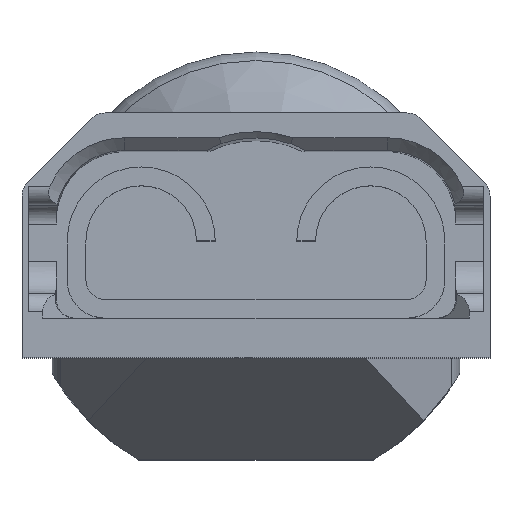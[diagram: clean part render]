
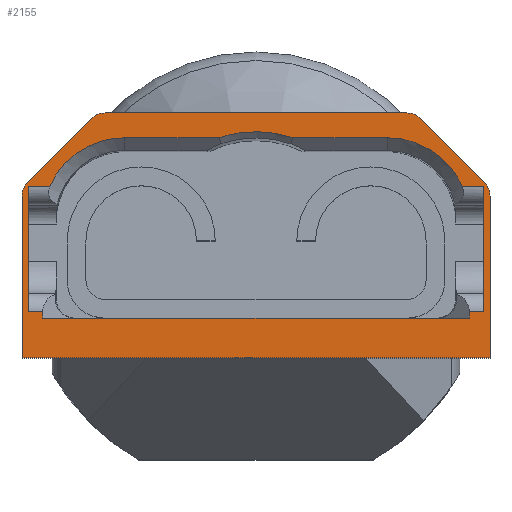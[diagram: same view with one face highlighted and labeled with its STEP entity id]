
A CAD part, top view. The second image highlights one B-rep face of the part: STEP entity #2155.
In plain terms, the highlighted planar face has unit normal (0, 0, 1).
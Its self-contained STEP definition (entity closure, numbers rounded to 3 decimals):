
#2=CARTESIAN_POINT('',(4.356,3.271,0.));
#3=DIRECTION('',(0.,0.,1.));
#4=DIRECTION('',(1.,0.,0.));
#5=AXIS2_PLACEMENT_3D('',#2,#3,#4);
#7=DIRECTION('',(0.,1.,0.));
#8=VECTOR('',#7,3.271);
#9=CARTESIAN_POINT('',(4.737,0.,0.));
#10=LINE('',#9,#8);
#11=DIRECTION('',(1.,0.,0.));
#12=VECTOR('',#11,9.474);
#13=CARTESIAN_POINT('',(-4.737,0.,0.));
#14=LINE('',#13,#12);
#15=DIRECTION('',(0.,-1.,0.));
#16=VECTOR('',#15,3.271);
#17=CARTESIAN_POINT('',(-4.737,3.271,0.));
#18=LINE('',#17,#16);
#19=CARTESIAN_POINT('',(-4.356,3.271,0.));
#20=DIRECTION('',(0.,0.,1.));
#21=DIRECTION('',(-0.707,0.707,0.));
#22=AXIS2_PLACEMENT_3D('',#19,#20,#21);
#24=DIRECTION('',(0.707,0.707,0.));
#25=VECTOR('',#24,1.84);
#26=CARTESIAN_POINT('',(-4.626,3.541,0.));
#27=LINE('',#26,#25);
#28=CARTESIAN_POINT('',(-3.055,4.572,0.));
#29=DIRECTION('',(0.,0.,1.));
#30=DIRECTION('',(0.,1.,0.));
#31=AXIS2_PLACEMENT_3D('',#28,#29,#30);
#33=DIRECTION('',(-1.,0.,0.));
#34=VECTOR('',#33,6.111);
#35=CARTESIAN_POINT('',(3.055,4.953,0.));
#36=LINE('',#35,#34);
#37=CARTESIAN_POINT('',(3.055,4.572,0.));
#38=DIRECTION('',(0.,0.,1.));
#39=DIRECTION('',(0.707,0.707,0.));
#40=AXIS2_PLACEMENT_3D('',#37,#38,#39);
#42=DIRECTION('',(1.,0.,0.));
#43=VECTOR('',#42,0.434);
#44=CARTESIAN_POINT('',(-4.61,3.467,0.));
#45=LINE('',#44,#43);
#46=DIRECTION('',(1.,0.,0.));
#47=VECTOR('',#46,0.291);
#48=CARTESIAN_POINT('',(-4.61,0.927,0.));
#49=LINE('',#48,#47);
#50=DIRECTION('',(0.,1.,0.));
#51=VECTOR('',#50,0.127);
#52=CARTESIAN_POINT('',(-4.319,0.8,0.));
#53=LINE('',#52,#51);
#54=DIRECTION('',(0.,-1.,0.));
#55=VECTOR('',#54,0.127);
#56=CARTESIAN_POINT('',(4.319,0.927,0.));
#57=LINE('',#56,#55);
#58=DIRECTION('',(1.,0.,0.));
#59=VECTOR('',#58,0.291);
#60=CARTESIAN_POINT('',(4.319,0.927,0.));
#61=LINE('',#60,#59);
#62=DIRECTION('',(1.,0.,0.));
#63=VECTOR('',#62,0.434);
#64=CARTESIAN_POINT('',(4.176,3.467,0.));
#65=LINE('',#64,#63);
#66=CARTESIAN_POINT('',(2.663,4.45,0.));
#67=CARTESIAN_POINT('',(2.771,4.45,0.));
#68=CARTESIAN_POINT('',(2.987,4.429,0.));
#69=CARTESIAN_POINT('',(3.302,4.333,0.));
#70=CARTESIAN_POINT('',(3.59,4.179,0.));
#71=CARTESIAN_POINT('',(3.844,3.97,0.));
#72=CARTESIAN_POINT('',(4.04,3.73,0.));
#73=CARTESIAN_POINT('',(4.138,3.552,0.));
#74=CARTESIAN_POINT('',(4.176,3.467,0.));
#76=DIRECTION('',(1.,0.,0.));
#77=VECTOR('',#76,1.923);
#78=CARTESIAN_POINT('',(0.74,4.45,0.));
#79=LINE('',#78,#77);
#80=CARTESIAN_POINT('',(0.74,4.45,0.));
#81=CARTESIAN_POINT('',(0.644,4.483,0.));
#82=CARTESIAN_POINT('',(0.401,4.549,0.));
#83=CARTESIAN_POINT('',(0.,4.588,0.));
#84=CARTESIAN_POINT('',(-0.401,4.549,
0.));
#85=CARTESIAN_POINT('',(-0.644,4.483,0.));
#86=CARTESIAN_POINT('',(-0.74,4.45,0.));
#88=DIRECTION('',(1.,0.,0.));
#89=VECTOR('',#88,1.923);
#90=CARTESIAN_POINT('',(-2.663,4.45,0.));
#91=LINE('',#90,#89);
#92=CARTESIAN_POINT('',(-4.176,3.467,0.));
#93=CARTESIAN_POINT('',(-4.137,3.554,0.));
#94=CARTESIAN_POINT('',(-4.039,3.732,0.));
#95=CARTESIAN_POINT('',(-3.84,3.975,0.));
#96=CARTESIAN_POINT('',(-3.587,4.181,0.));
#97=CARTESIAN_POINT('',(-3.296,4.336,0.));
#98=CARTESIAN_POINT('',(-2.981,4.43,0.));
#99=CARTESIAN_POINT('',(-2.77,4.45,0.));
#100=CARTESIAN_POINT('',(-2.663,4.45,0.));
#106=DIRECTION('',(-0.707,0.707,0.));
#107=VECTOR('',#106,1.84);
#108=CARTESIAN_POINT('',(4.626,3.541,0.));
#109=LINE('',#108,#107);
#1098=CARTESIAN_POINT('',(-4.176,3.467,0.));
#1252=DIRECTION('',(-1.,0.,0.));
#1253=VECTOR('',#1252,8.638);
#1254=CARTESIAN_POINT('',(4.319,0.8,0.));
#1255=LINE('',#1254,#1253);
#1596=CARTESIAN_POINT('',(4.176,3.467,0.));
#1656=DIRECTION('',(0.,-1.,0.));
#1657=VECTOR('',#1656,2.54);
#1658=CARTESIAN_POINT('',(4.61,3.467,0.));
#1659=LINE('',#1658,#1657);
#1683=DIRECTION('',(0.,1.,0.));
#1684=VECTOR('',#1683,2.54);
#1685=CARTESIAN_POINT('',(-4.61,0.927,0.));
#1686=LINE('',#1685,#1684);
#1761=CARTESIAN_POINT('',(-4.737,0.,0.));
#1762=CARTESIAN_POINT('',(4.737,0.,0.));
#1763=VERTEX_POINT('',#1761);
#1764=VERTEX_POINT('',#1762);
#1853=CARTESIAN_POINT('',(-4.61,0.927,0.));
#1854=CARTESIAN_POINT('',(-4.319,0.927,0.));
#1855=VERTEX_POINT('',#1853);
#1856=VERTEX_POINT('',#1854);
#1863=CARTESIAN_POINT('',(4.319,0.927,0.));
#1864=CARTESIAN_POINT('',(4.61,0.927,0.));
#1865=VERTEX_POINT('',#1863);
#1866=VERTEX_POINT('',#1864);
#1941=CARTESIAN_POINT('',(4.737,3.271,0.));
#1942=CARTESIAN_POINT('',(4.626,3.541,0.));
#1943=VERTEX_POINT('',#1941);
#1944=VERTEX_POINT('',#1942);
#1953=CARTESIAN_POINT('',(3.325,4.841,0.));
#1954=CARTESIAN_POINT('',(3.055,4.953,0.));
#1955=VERTEX_POINT('',#1953);
#1956=VERTEX_POINT('',#1954);
#1965=CARTESIAN_POINT('',(-3.055,4.953,0.));
#1966=CARTESIAN_POINT('',(-3.325,4.841,0.));
#1967=VERTEX_POINT('',#1965);
#1968=VERTEX_POINT('',#1966);
#1977=CARTESIAN_POINT('',(-4.626,3.541,0.));
#1978=CARTESIAN_POINT('',(-4.737,3.271,0.));
#1979=VERTEX_POINT('',#1977);
#1980=VERTEX_POINT('',#1978);
#2017=CARTESIAN_POINT('',(0.74,4.45,
0.));
#2018=CARTESIAN_POINT('',(2.663,4.45,0.));
#2019=VERTEX_POINT('',#2017);
#2020=VERTEX_POINT('',#2018);
#2023=VERTEX_POINT('',#86);
#2028=CARTESIAN_POINT('',(-2.663,4.45,0.));
#2029=VERTEX_POINT('',#2028);
#2034=CARTESIAN_POINT('',(4.319,0.8,0.));
#2035=VERTEX_POINT('',#2034);
#2036=CARTESIAN_POINT('',(-4.319,0.8,0.));
#2037=VERTEX_POINT('',#2036);
#2038=VERTEX_POINT('',#1098);
#2043=CARTESIAN_POINT('',(-4.61,3.467,0.));
#2044=VERTEX_POINT('',#2043);
#2050=VERTEX_POINT('',#1596);
#2051=CARTESIAN_POINT('',(4.61,3.467,0.));
#2052=VERTEX_POINT('',#2051);
#2098=CARTESIAN_POINT('',(0.,0.,0.));
#2099=DIRECTION('',(0.,0.,1.));
#2100=DIRECTION('',(1.,0.,0.));
#2101=AXIS2_PLACEMENT_3D('',#2098,#2099,#2100);
#2102=PLANE('',#2101);
#2104=ORIENTED_EDGE('',*,*,#2103,.F.);
#2106=ORIENTED_EDGE('',*,*,#2105,.F.);
#2108=ORIENTED_EDGE('',*,*,#2107,.F.);
#2110=ORIENTED_EDGE('',*,*,#2109,.F.);
#2112=ORIENTED_EDGE('',*,*,#2111,.F.);
#2114=ORIENTED_EDGE('',*,*,#2113,.T.);
#2116=ORIENTED_EDGE('',*,*,#2115,.F.);
#2118=ORIENTED_EDGE('',*,*,#2117,.F.);
#2120=ORIENTED_EDGE('',*,*,#2119,.F.);
#2122=ORIENTED_EDGE('',*,*,#2121,.F.);
#2123=EDGE_LOOP('',(#2104,#2106,#2108,#2110,#2112,#2114,#2116,#2118,#2120,
#2122));
#2124=FACE_OUTER_BOUND('',#2123,.F.);
#2126=ORIENTED_EDGE('',*,*,#2125,.F.);
#2128=ORIENTED_EDGE('',*,*,#2127,.F.);
#2130=ORIENTED_EDGE('',*,*,#2129,.T.);
#2132=ORIENTED_EDGE('',*,*,#2131,.F.);
#2134=ORIENTED_EDGE('',*,*,#2133,.F.);
#2136=ORIENTED_EDGE('',*,*,#2135,.F.);
#2138=ORIENTED_EDGE('',*,*,#2137,.T.);
#2140=ORIENTED_EDGE('',*,*,#2139,.F.);
#2142=ORIENTED_EDGE('',*,*,#2141,.F.);
#2144=ORIENTED_EDGE('',*,*,#2143,.F.);
#2146=ORIENTED_EDGE('',*,*,#2145,.F.);
#2148=ORIENTED_EDGE('',*,*,#2147,.T.);
#2150=ORIENTED_EDGE('',*,*,#2149,.F.);
#2152=ORIENTED_EDGE('',*,*,#2151,.F.);
#2153=EDGE_LOOP('',(#2126,#2128,#2130,#2132,#2134,#2136,#2138,#2140,#2142,#2144,
#2146,#2148,#2150,#2152));
#2154=FACE_BOUND('',#2153,.F.);
#6=CIRCLE('',#5,0.381);
#23=CIRCLE('',#22,0.381);
#32=CIRCLE('',#31,0.381);
#41=CIRCLE('',#40,0.381);
#75=B_SPLINE_CURVE_WITH_KNOTS('',3,(#66,#67,#68,#69,#70,#71,#72,#73,#74),
.UNSPECIFIED.,.F.,.F.,(4,1,1,1,1,1,4),(0.,0.171,0.342,
0.513,0.683,0.854,1.),.UNSPECIFIED.);
#87=B_SPLINE_CURVE_WITH_KNOTS('',3,(#80,#81,#82,#83,#84,#85,#86),.UNSPECIFIED.,
.F.,.F.,(4,1,1,1,4),(0.,0.202,0.5,0.797,
1.),.UNSPECIFIED.);
#101=B_SPLINE_CURVE_WITH_KNOTS('',3,(#92,#93,#94,#95,#96,#97,#98,#99,#100),
.UNSPECIFIED.,.F.,.F.,(4,1,1,1,1,1,4),(0.,0.148,0.319,
0.489,0.659,0.83,1.),.UNSPECIFIED.);
#2103=EDGE_CURVE('',#1943,#1944,#6,.T.);
#2105=EDGE_CURVE('',#1764,#1943,#10,.T.);
#2107=EDGE_CURVE('',#1763,#1764,#14,.T.);
#2109=EDGE_CURVE('',#1980,#1763,#18,.T.);
#2111=EDGE_CURVE('',#1979,#1980,#23,.T.);
#2113=EDGE_CURVE('',#1979,#1968,#27,.T.);
#2115=EDGE_CURVE('',#1967,#1968,#32,.T.);
#2117=EDGE_CURVE('',#1956,#1967,#36,.T.);
#2119=EDGE_CURVE('',#1955,#1956,#41,.T.);
#2121=EDGE_CURVE('',#1944,#1955,#109,.T.);
#2125=EDGE_CURVE('',#2044,#2038,#45,.T.);
#2127=EDGE_CURVE('',#1855,#2044,#1686,.T.);
#2129=EDGE_CURVE('',#1855,#1856,#49,.T.);
#2131=EDGE_CURVE('',#2037,#1856,#53,.T.);
#2133=EDGE_CURVE('',#2035,#2037,#1255,.T.);
#2135=EDGE_CURVE('',#1865,#2035,#57,.T.);
#2137=EDGE_CURVE('',#1865,#1866,#61,.T.);
#2139=EDGE_CURVE('',#2052,#1866,#1659,.T.);
#2141=EDGE_CURVE('',#2050,#2052,#65,.T.);
#2143=EDGE_CURVE('',#2020,#2050,#75,.T.);
#2145=EDGE_CURVE('',#2019,#2020,#79,.T.);
#2147=EDGE_CURVE('',#2019,#2023,#87,.T.);
#2149=EDGE_CURVE('',#2029,#2023,#91,.T.);
#2151=EDGE_CURVE('',#2038,#2029,#101,.T.);
#2155=ADVANCED_FACE('',(#2124,#2154),#2102,.T.);
